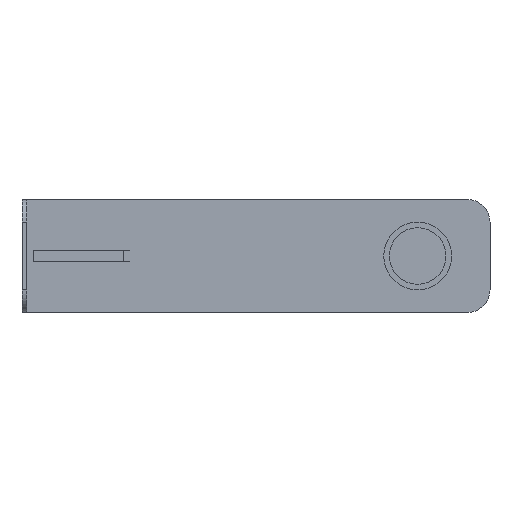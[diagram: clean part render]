
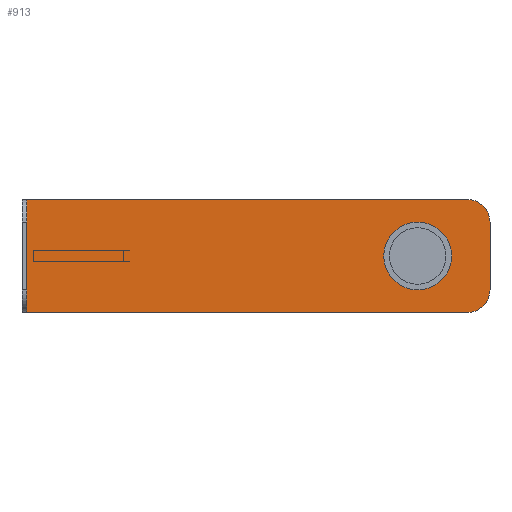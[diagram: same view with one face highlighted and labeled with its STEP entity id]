
A CAD part, front view. The second image highlights one B-rep face of the part: STEP entity #913.
In plain terms, the highlighted planar face has unit normal (0, -1, 0).
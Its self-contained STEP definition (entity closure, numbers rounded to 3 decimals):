
#113=CARTESIAN_POINT('',(22.,137.,-15.));
#114=DIRECTION('',(0.,-1.,0.));
#115=DIRECTION('',(0.,0.,-1.));
#116=AXIS2_PLACEMENT_3D('',#113,#114,#115);
#118=DIRECTION('',(0.,0.,1.));
#119=VECTOR('',#118,50.);
#120=CARTESIAN_POINT('',(-173.,137.,-25.));
#121=LINE('',#120,#119);
#122=CARTESIAN_POINT('',(22.,137.,15.));
#123=DIRECTION('',(0.,-1.,0.));
#124=DIRECTION('',(1.,0.,0.));
#125=AXIS2_PLACEMENT_3D('',#122,#123,#124);
#136=CARTESIAN_POINT('',(0.,137.,0.));
#137=DIRECTION('',(0.,1.,0.));
#138=DIRECTION('',(-1.,0.,0.));
#139=AXIS2_PLACEMENT_3D('',#136,#137,#138);
#182=CARTESIAN_POINT('',(0.,137.,0.));
#183=DIRECTION('',(0.,1.,0.));
#184=DIRECTION('',(1.,0.,0.));
#185=AXIS2_PLACEMENT_3D('',#182,#183,#184);
#447=DIRECTION('',(1.,0.,0.));
#448=VECTOR('',#447,195.);
#449=CARTESIAN_POINT('',(-173.,137.,-25.));
#450=LINE('',#449,#448);
#547=DIRECTION('',(1.,0.,0.));
#548=VECTOR('',#547,195.);
#549=CARTESIAN_POINT('',(-173.,137.,25.));
#550=LINE('',#549,#548);
#601=DIRECTION('',(0.,0.,1.));
#602=VECTOR('',#601,30.);
#603=CARTESIAN_POINT('',(32.,137.,-15.));
#604=LINE('',#603,#602);
#737=CARTESIAN_POINT('',(-173.,137.,-25.));
#738=CARTESIAN_POINT('',(-173.,137.,25.));
#739=VERTEX_POINT('',#737);
#740=VERTEX_POINT('',#738);
#749=CARTESIAN_POINT('',(-15.,137.,0.));
#750=CARTESIAN_POINT('',(15.,137.,0.));
#751=VERTEX_POINT('',#749);
#752=VERTEX_POINT('',#750);
#813=CARTESIAN_POINT('',(22.,137.,-25.));
#814=CARTESIAN_POINT('',(32.,137.,-15.));
#815=VERTEX_POINT('',#813);
#816=VERTEX_POINT('',#814);
#825=CARTESIAN_POINT('',(32.,137.,15.));
#826=VERTEX_POINT('',#825);
#827=CARTESIAN_POINT('',(22.,137.,25.));
#828=VERTEX_POINT('',#827);
#889=CARTESIAN_POINT('',(-173.,137.,-25.));
#890=DIRECTION('',(0.,-1.,0.));
#891=DIRECTION('',(1.,0.,0.));
#892=AXIS2_PLACEMENT_3D('',#889,#890,#891);
#893=PLANE('',#892);
#894=ORIENTED_EDGE('',*,*,#866,.F.);
#896=ORIENTED_EDGE('',*,*,#895,.F.);
#898=ORIENTED_EDGE('',*,*,#897,.T.);
#900=ORIENTED_EDGE('',*,*,#899,.T.);
#902=ORIENTED_EDGE('',*,*,#901,.F.);
#904=ORIENTED_EDGE('',*,*,#903,.F.);
#905=EDGE_LOOP('',(#894,#896,#898,#900,#902,#904));
#906=FACE_OUTER_BOUND('',#905,.F.);
#908=ORIENTED_EDGE('',*,*,#907,.F.);
#910=ORIENTED_EDGE('',*,*,#909,.F.);
#911=EDGE_LOOP('',(#908,#910));
#912=FACE_BOUND('',#911,.F.);
#117=CIRCLE('',#116,10.);
#126=CIRCLE('',#125,10.);
#140=CIRCLE('',#139,15.);
#186=CIRCLE('',#185,15.);
#866=EDGE_CURVE('',#815,#816,#117,.T.);
#895=EDGE_CURVE('',#739,#815,#450,.T.);
#897=EDGE_CURVE('',#739,#740,#121,.T.);
#899=EDGE_CURVE('',#740,#828,#550,.T.);
#901=EDGE_CURVE('',#826,#828,#126,.T.);
#903=EDGE_CURVE('',#816,#826,#604,.T.);
#907=EDGE_CURVE('',#751,#752,#140,.T.);
#909=EDGE_CURVE('',#752,#751,#186,.T.);
#913=ADVANCED_FACE('',(#906,#912),#893,.T.);
